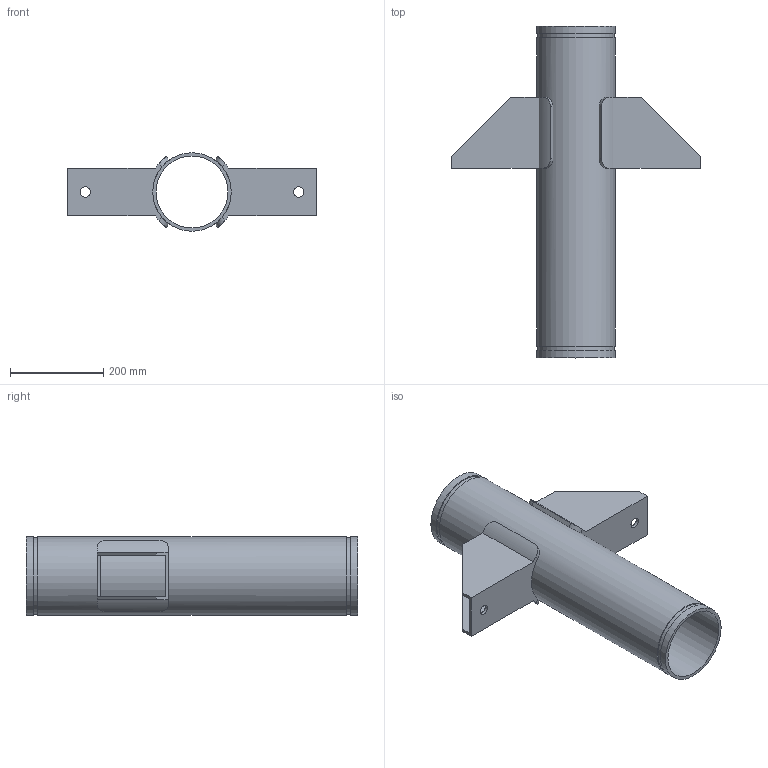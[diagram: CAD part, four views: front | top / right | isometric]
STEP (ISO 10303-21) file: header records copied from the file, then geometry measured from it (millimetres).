
FILE_DESCRIPTION(/* description */ ('VIC Floor-Mounted Carbon Steel Riser Anchor No A10','CAx-IF Rec.Pracs.---Representation and Presentation of Product Manufacturing Information (PMI)---4.0---2014-10-13'),/* implementation_level */ '2;1');
FILE_NAME(/* name */ 'C:\Users\kkamble\AppData\Roaming\Autodesk\ApplicationPlugins\Back Up\Victaulic_SS-OGS_Riser Anchor_No A10 (OGS)\Victaulic_SS-OGS_Riser Anchor_No A10 (OGS)_6 (150).stp',/* time_stamp */ '2020-08-25T18:06:52+06:00',/* author */ ('kkamble'),/* organization */ ('Victaulic'),/* preprocessor_version */ 'ST-DEVELOPER v17.2',/* originating_system */ 'Autodesk Inventor 2019',/* authorisation */ '');
FILE_SCHEMA (('AP242_MANAGED_MODEL_BASED_3D_ENGINEERING_MIM_LF { 1 0 10303 442 1 1 4 }'));
Length unit declared in the file: inch
Products named in the file (1): A10S-06.0
Bounding box: 533.4 x 711.2 x 168.28 mm (x, y, z)
Volume: 3791376 mm3; surface area: 992193.7 mm2
Topology: 1 solids, 1 shells, 56 faces, 155 edges, 106 vertices
Faces by surface type: plane 34, cylinder 22
Full cylindrical faces by diameter (mm): 22.225 x2, 154.051 x1, 163.957 x2, 168.275 x3
Entity records: 2249 total; most frequent: CARTESIAN_POINT 607, DIRECTION 325, ORIENTED_EDGE 310, EDGE_CURVE 155, AXIS2_PLACEMENT_3D 116, VERTEX_POINT 106, LINE 93, VECTOR 93
